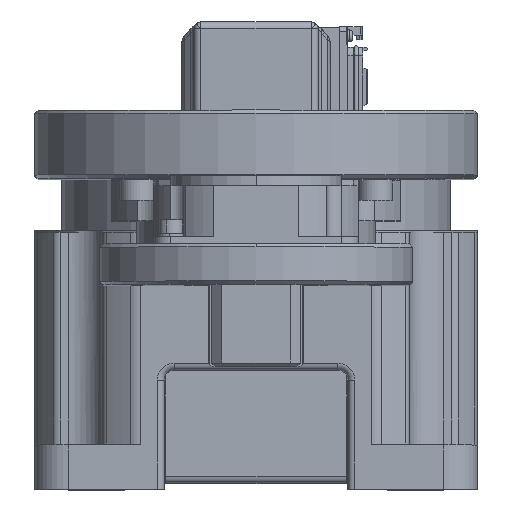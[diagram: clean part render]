
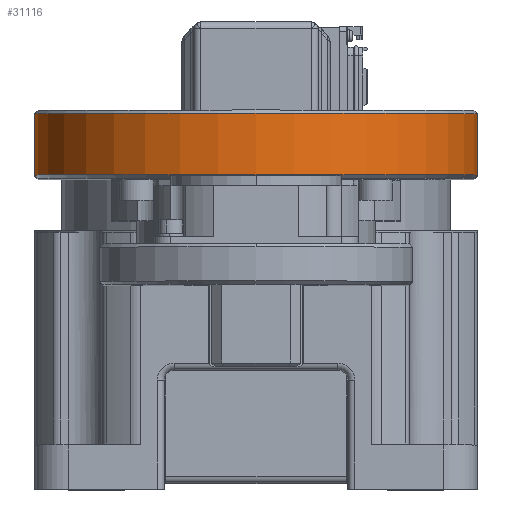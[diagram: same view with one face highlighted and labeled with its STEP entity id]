
A CAD part, top view. The second image highlights one B-rep face of the part: STEP entity #31116.
In plain terms, the highlighted cylindrical face has radius 65 mm (diameter 130 mm), a partial arc.
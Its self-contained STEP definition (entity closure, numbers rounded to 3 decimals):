
#812 = CARTESIAN_POINT ( 'NONE',  ( 65., 42., 230. ) ) ;
#886 = EDGE_LOOP ( 'NONE', ( #55120, #11597, #28032, #37488, #45932 ) ) ;
#1340 = VERTEX_POINT ( 'NONE', #21048 ) ;
#2070 = EDGE_CURVE ( 'NONE', #1340, #31536, #44490, .T. ) ;
#3502 = EDGE_CURVE ( 'NONE', #36241, #1340, #10819, .T. ) ;
#6589 = AXIS2_PLACEMENT_3D ( 'NONE', #50462, #53808, #11303 ) ;
#10099 = VECTOR ( 'NONE', #19305, 1000. ) ;
#10819 = LINE ( 'NONE', #44136, #27789 ) ;
#11303 = DIRECTION ( 'NONE',  ( 0., 0., 1. ) ) ;
#11597 = ORIENTED_EDGE ( 'NONE', *, *, #2070, .T. ) ;
#14865 = CARTESIAN_POINT ( 'NONE',  ( 0., 61., 230. ) ) ;
#15867 = CARTESIAN_POINT ( 'NONE',  ( -65., 60., 230. ) ) ;
#19270 = AXIS2_PLACEMENT_3D ( 'NONE', #34087, #46985, #38543 ) ;
#19305 = DIRECTION ( 'NONE',  ( 0., -1., 0. ) ) ;
#19367 = VERTEX_POINT ( 'NONE', #45522 ) ;
#20473 = EDGE_CURVE ( 'NONE', #19367, #48466, #22672, .T. ) ;
#20840 = DIRECTION ( 'NONE',  ( 0., 0., 1. ) ) ;
#21048 = CARTESIAN_POINT ( 'NONE',  ( -65., 42., 230. ) ) ;
#22672 = LINE ( 'NONE', #39749, #10099 ) ;
#26375 = DIRECTION ( 'NONE',  ( 0., 0., -1. ) ) ;
#27789 = VECTOR ( 'NONE', #27858, 1000. ) ;
#27858 = DIRECTION ( 'NONE',  ( 0., -1., 0. ) ) ;
#28032 = ORIENTED_EDGE ( 'NONE', *, *, #30812, .T. ) ;
#28374 = AXIS2_PLACEMENT_3D ( 'NONE', #34255, #46585, #20840 ) ;
#30735 = AXIS2_PLACEMENT_3D ( 'NONE', #14865, #31919, #26375 ) ;
#30812 = EDGE_CURVE ( 'NONE', #31536, #48466, #49474, .T. ) ;
#31116 = ADVANCED_FACE ( 'NONE', ( #35040 ), #40316, .T. ) ;
#31536 = VERTEX_POINT ( 'NONE', #37926 ) ;
#31919 = DIRECTION ( 'NONE',  ( 0., -1., 0. ) ) ;
#33619 = EDGE_CURVE ( 'NONE', #19367, #36241, #43423, .T. ) ;
#34087 = CARTESIAN_POINT ( 'NONE',  ( 0., 60., 230. ) ) ;
#34255 = CARTESIAN_POINT ( 'NONE',  ( 0., 42., 230. ) ) ;
#35040 = FACE_OUTER_BOUND ( 'NONE', #886, .T. ) ;
#36241 = VERTEX_POINT ( 'NONE', #15867 ) ;
#37488 = ORIENTED_EDGE ( 'NONE', *, *, #20473, .F. ) ;
#37926 = CARTESIAN_POINT ( 'NONE',  ( 0., 42., 295. ) ) ;
#38543 = DIRECTION ( 'NONE',  ( 0., 0., 1. ) ) ;
#39749 = CARTESIAN_POINT ( 'NONE',  ( 65., 61., 230. ) ) ;
#40316 = CYLINDRICAL_SURFACE ( 'NONE', #30735, 65. ) ;
#43423 = CIRCLE ( 'NONE', #19270, 65. ) ;
#44136 = CARTESIAN_POINT ( 'NONE',  ( -65., 61., 230. ) ) ;
#44490 = CIRCLE ( 'NONE', #28374, 65. ) ;
#45522 = CARTESIAN_POINT ( 'NONE',  ( 65., 60., 230. ) ) ;
#45932 = ORIENTED_EDGE ( 'NONE', *, *, #33619, .T. ) ;
#46585 = DIRECTION ( 'NONE',  ( 0., 1., 0. ) ) ;
#46985 = DIRECTION ( 'NONE',  ( 0., -1., 0. ) ) ;
#48466 = VERTEX_POINT ( 'NONE', #812 ) ;
#49474 = CIRCLE ( 'NONE', #6589, 65. ) ;
#50462 = CARTESIAN_POINT ( 'NONE',  ( 0., 42., 230. ) ) ;
#53808 = DIRECTION ( 'NONE',  ( 0., 1., 0. ) ) ;
#55120 = ORIENTED_EDGE ( 'NONE', *, *, #3502, .T. ) ;
